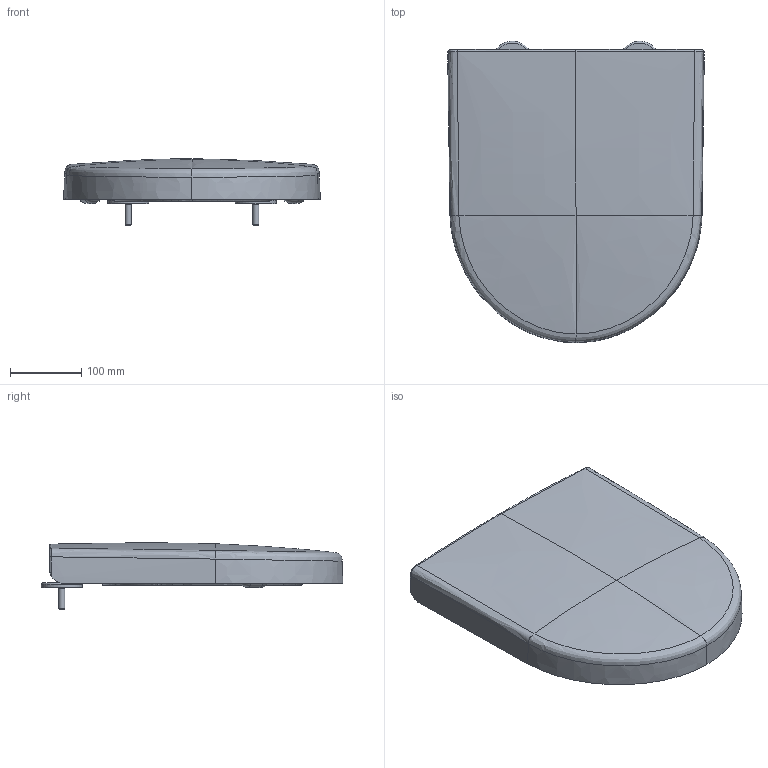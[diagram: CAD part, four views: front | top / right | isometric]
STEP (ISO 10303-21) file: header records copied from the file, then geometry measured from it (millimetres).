
FILE_DESCRIPTION(/* description */ (''),/* implementation_level */ '2;1');
FILE_NAME(/* name */ '9M6961_WCS.stp',/* time_stamp */ '2021-11-08T14:37:45+01:00',/* author */ (''),/* organization */ (''),/* preprocessor_version */ 'ST-DEVELOPER v18.1',/* originating_system */ 'SIEMENS PLM Software NX 1973',/* authorisation */ '');
FILE_SCHEMA (('AUTOMOTIVE_DESIGN { 1 0 10303 214 3 1 1 1 }'));
Products named in the file (1): Muel1288447891ca
Bounding box: 360.85 x 424.45 x 93.84 mm (x, y, z)
Volume: 1591570.8 mm3; surface area: 596193.2 mm2
Topology: 11 solids, 11 shells, 590 faces, 1418 edges, 829 vertices
Faces by surface type: bspline 342, cylinder 89, plane 77, torus 34, cone 23, sphere 13, extrusion 10, revolution 2
Full cylindrical faces by diameter (mm): 4 x2, 8 x6, 8.15 x2, 8.5 x2, 8.85 x2, 9.1 x1, 15 x2, 28.5 x2, 56 x2, 57.6 x2
Entity records: 83488 total; most frequent: CARTESIAN_POINT 72844, ORIENTED_EDGE 2640, DIRECTION 1336, EDGE_CURVE 1320, VERTEX_POINT 805, B_SPLINE_CURVE_WITH_KNOTS 758, EDGE_LOOP 653, ADVANCED_FACE 590
